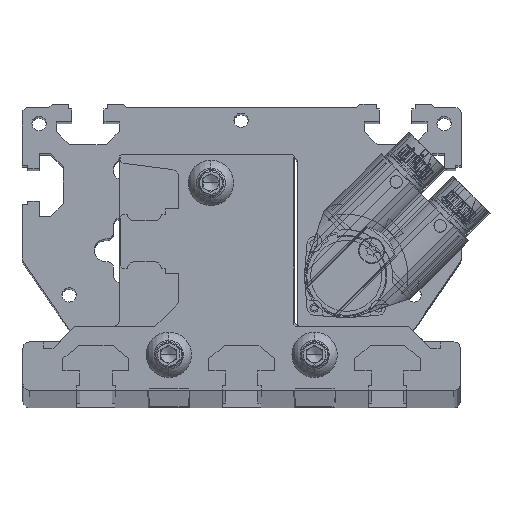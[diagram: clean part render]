
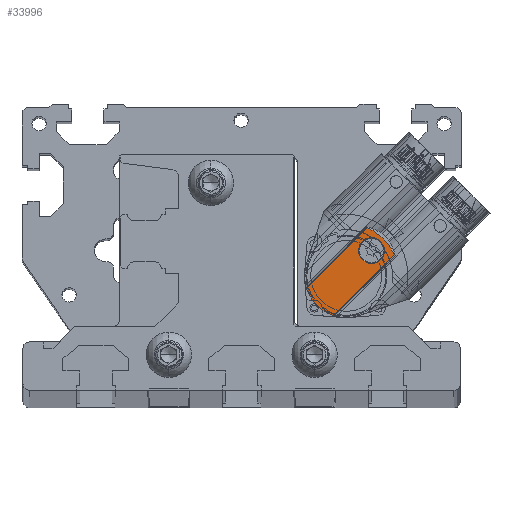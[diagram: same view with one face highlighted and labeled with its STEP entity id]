
A CAD part, top view. The second image highlights one B-rep face of the part: STEP entity #33996.
In plain terms, the highlighted planar face has unit normal (0, 0, 1).
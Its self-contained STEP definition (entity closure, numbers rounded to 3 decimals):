
#387 = VERTEX_POINT ( 'NONE', #5078 ) ;
#523 = VERTEX_POINT ( 'NONE', #5214 ) ;
#524 = VERTEX_POINT ( 'NONE', #5215 ) ;
#978 = AXIS2_PLACEMENT_3D ( 'NONE', #30060, #30062, #30063 ) ;
#2927 = ORIENTED_EDGE ( 'NONE', *, *, #3869, .T. ) ;
#2928 = ORIENTED_EDGE ( 'NONE', *, *, #14838, .T. ) ;
#2929 = ORIENTED_EDGE ( 'NONE', *, *, #14837, .F. ) ;
#2930 = ORIENTED_EDGE ( 'NONE', *, *, #10864, .T. ) ;
#2931 = ORIENTED_EDGE ( 'NONE', *, *, #10866, .T. ) ;
#2932 = ORIENTED_EDGE ( 'NONE', *, *, #20700, .T. ) ;
#3869 = EDGE_CURVE ( 'NONE', #524, #523, #6462, .T. ) ;
#4845 = EDGE_LOOP ( 'NONE', ( #2927, #2928 ) ) ;
#4846 = EDGE_LOOP ( 'NONE', ( #2929, #2930, #2931, #2932 ) ) ;
#5078 = CARTESIAN_POINT ( 'NONE',  ( -12.275, -3.968, 18.8 ) ) ;
#5214 = CARTESIAN_POINT ( 'NONE',  ( 10.607, 10.607, 18.8 ) ) ;
#5215 = CARTESIAN_POINT ( 'NONE',  ( 4.95, 4.95, 18.8 ) ) ;
#5431 = AXIS2_PLACEMENT_3D ( 'NONE', #8486, #8487, #8488 ) ;
#5676 = AXIS2_PLACEMENT_3D ( 'NONE', #25266, #25267, #25268 ) ;
#5677 = AXIS2_PLACEMENT_3D ( 'NONE', #25269, #25270, #25271 ) ;
#6462 = CIRCLE ( 'NONE', #5431, 4. ) ;
#8486 = CARTESIAN_POINT ( 'NONE',  ( 7.778, 7.778, 18.8 ) ) ;
#8487 = DIRECTION ( 'NONE',  ( 0., 0., -1. ) ) ;
#8488 = DIRECTION ( 'NONE',  ( -0.707, -0.707, 0. ) ) ;
#9217 = CARTESIAN_POINT ( 'NONE',  ( 13.735, 5.428, 18.8 ) ) ;
#9218 = DIRECTION ( 'NONE',  ( 0.707, 0.707, 0. ) ) ;
#9223 = CARTESIAN_POINT ( 'NONE',  ( 14.874, 6.567, 18.8 ) ) ;
#9224 = CARTESIAN_POINT ( 'NONE',  ( 14.421, 7.463, 18.8 ) ) ;
#9225 = CARTESIAN_POINT ( 'NONE',  ( 13.902, 8.311, 18.8 ) ) ;
#9226 = CARTESIAN_POINT ( 'NONE',  ( 12.741, 9.914, 18.8 ) ) ;
#9227 = CARTESIAN_POINT ( 'NONE',  ( 12.098, 10.67, 18.8 ) ) ;
#9228 = CARTESIAN_POINT ( 'NONE',  ( 11.037, 11.732, 18.8 ) ) ;
#9229 = CARTESIAN_POINT ( 'NONE',  ( 10.668, 12.073, 18.8 ) ) ;
#9230 = CARTESIAN_POINT ( 'NONE',  ( 9.909, 12.72, 18.8 ) ) ;
#9231 = CARTESIAN_POINT ( 'NONE',  ( 9.519, 13.027, 18.8 ) ) ;
#9232 = CARTESIAN_POINT ( 'NONE',  ( 8.312, 13.902, 18.8 ) ) ;
#9233 = CARTESIAN_POINT ( 'NONE',  ( 7.463, 14.421, 18.8 ) ) ;
#9234 = CARTESIAN_POINT ( 'NONE',  ( 6.567, 14.874, 18.8 ) ) ;
#10864 = EDGE_CURVE ( 'NONE', #17690, #17678, #17284, .T. ) ;
#10866 = EDGE_CURVE ( 'NONE', #17678, #16187, #39583, .T. ) ;
#12423 = CARTESIAN_POINT ( 'NONE',  ( 14.874, 6.567, 18.8 ) ) ;
#12435 = CARTESIAN_POINT ( 'NONE',  ( -3.968, -12.275, 18.8 ) ) ;
#14837 = EDGE_CURVE ( 'NONE', #17690, #387, #43410, .T. ) ;
#14838 = EDGE_CURVE ( 'NONE', #523, #524, #43411, .T. ) ;
#16187 = VERTEX_POINT ( 'NONE', #29846 ) ;
#17284 = LINE ( 'NONE', #9217, #17285 ) ;
#17285 = VECTOR ( 'NONE', #9218, 1000. ) ;
#17678 = VERTEX_POINT ( 'NONE', #12423 ) ;
#17690 = VERTEX_POINT ( 'NONE', #12435 ) ;
#20700 = EDGE_CURVE ( 'NONE', #16187, #387, #32174, .T. ) ;
#24302 = FACE_BOUND ( 'NONE', #4845, .T. ) ;
#24303 = FACE_OUTER_BOUND ( 'NONE', #4846, .T. ) ;
#25266 = CARTESIAN_POINT ( 'NONE',  ( 0., 0., 18.8 ) ) ;
#25267 = DIRECTION ( 'NONE',  ( 0., 0., -1. ) ) ;
#25268 = DIRECTION ( 'NONE',  ( 0.707, -0.707, 0. ) ) ;
#25269 = CARTESIAN_POINT ( 'NONE',  ( 7.778, 7.778, 18.8 ) ) ;
#25270 = DIRECTION ( 'NONE',  ( 0., 0., -1. ) ) ;
#25271 = DIRECTION ( 'NONE',  ( -0.707, -0.707, 0. ) ) ;
#29846 = CARTESIAN_POINT ( 'NONE',  ( 6.567, 14.874, 18.8 ) ) ;
#30058 = PLANE ( 'NONE',  #978 ) ;
#30060 = CARTESIAN_POINT ( 'NONE',  ( 9.581, 9.581, 18.8 ) ) ;
#30062 = DIRECTION ( 'NONE',  ( 0., 0., 1. ) ) ;
#30063 = DIRECTION ( 'NONE',  ( 0.707, -0.707, 0. ) ) ;
#32174 = LINE ( 'NONE', #35004, #32175 ) ;
#32175 = VECTOR ( 'NONE', #35005, 1000. ) ;
#33996 = ADVANCED_FACE ( 'NONE', ( #24302, #24303 ), #30058, .T. ) ;
#35004 = CARTESIAN_POINT ( 'NONE',  ( 5.428, 13.735, 18.8 ) ) ;
#35005 = DIRECTION ( 'NONE',  ( -0.707, -0.707, 0. ) ) ;
#39583 = B_SPLINE_CURVE_WITH_KNOTS ( 'NONE', 3,
 ( #9223, #9224, #9225, #9226, #9227, #9228, #9229, #9230, #9231, #9232, #9233, #9234 ),
 .UNSPECIFIED., .F., .F.,
 ( 4, 2, 2, 2, 2, 4 ),
 ( 0., 0.003, 0.006, 0.007, 0.009, 0.012 ),
 .UNSPECIFIED. ) ;
#43410 = CIRCLE ( 'NONE', #5676, 12.9 ) ;
#43411 = CIRCLE ( 'NONE', #5677, 4. ) ;
